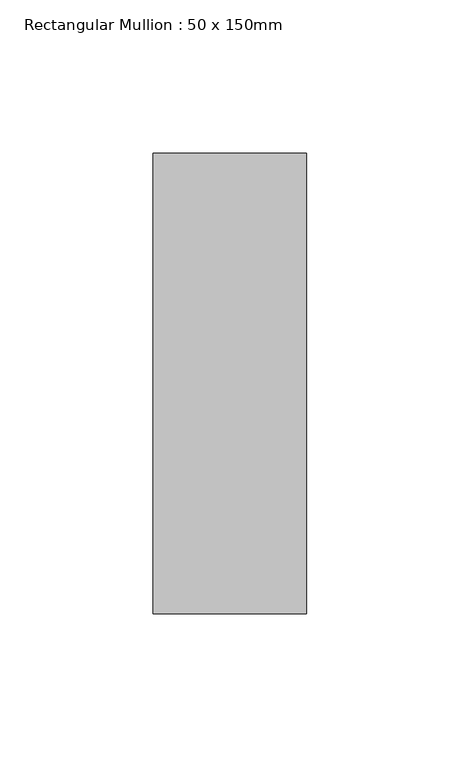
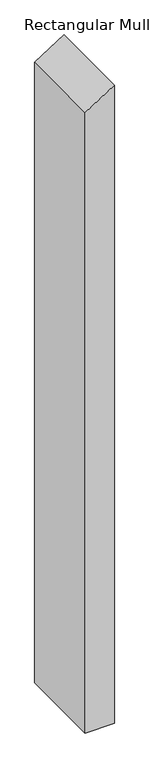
"""IFC4 building model written with IfcOpenShell, lengths in millimetres: member geometry, Rectangular Mullion : 50 x 150mm."""

from ifc_helpers import new_model, si_unit, frame, origin, place, context, project, spatial, polyline, outline, extrude, source, transform, mapped, element, save


def rectangular_mullion_50_x_150mm_a84f6caf(model_context):
    return source(origin(), model_context, "Body", "SweptSolid", [
        extrude(outline(polyline([(-43.3780246, 25.0), (-75.7358326, -25.0), (-1201.1978365, -25.0), (-1201.1978365, 25.0), (-43.3780246, 25.0)])), frame((0.0, -75.0, 0.0), z_axis=(0.0, 1.0, 0.0), x_axis=(0.0, 0.0, 1.0)), (0.0, 0.0, 1.0), 150.0),
    ])


if __name__ == "__main__":
    model = new_model("IFC4")
    model_context = context("Model", 3, world=origin())
    ifc_project = project(units=[si_unit("LENGTHUNIT", "METRE", prefix="MILLI")], contexts=[model_context])
    site = spatial("IfcSite", under=ifc_project)
    building = spatial("IfcBuilding", under=site)
    placement = place(None, origin())
    rectangular_mullion_50_x_150mm_shape = rectangular_mullion_50_x_150mm_a84f6caf(model_context)
    element("IfcMember", 1, ObjectType="Rectangular Mullion : 50 x 150mm", at=placement, inside=building, context=model_context, shape_type="MappedRepresentation", body=[
        mapped(rectangular_mullion_50_x_150mm_shape, transform((0.0, 0.0, 0.0), x_axis=(1.0, 0.0, 0.0), y_axis=(0.0, 1.0, 0.0), z_axis=(0.0, 0.0, 1.0))),
    ])
    save(model, "model.ifc")
